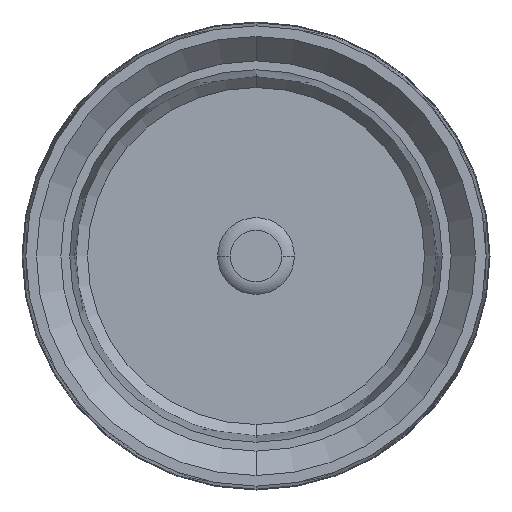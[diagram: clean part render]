
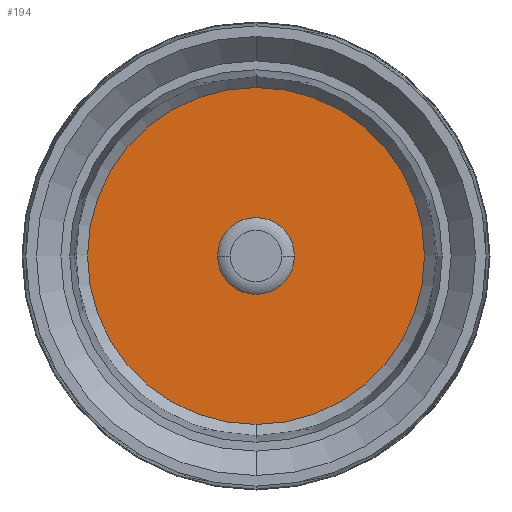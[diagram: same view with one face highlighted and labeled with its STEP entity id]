
A CAD part, front view. The second image highlights one B-rep face of the part: STEP entity #194.
In plain terms, the highlighted planar face has unit normal (0, -1, 0).
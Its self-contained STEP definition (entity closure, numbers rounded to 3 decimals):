
#15 = AXIS2_PLACEMENT_3D ( 'NONE', #780, #456, #702 ) ;
#18 = DIRECTION ( 'NONE',  ( 0., -1., 0. ) ) ;
#39 = DIRECTION ( 'NONE',  ( 0., -1., 0. ) ) ;
#57 = VERTEX_POINT ( 'NONE', #431 ) ;
#66 = FACE_OUTER_BOUND ( 'NONE', #707, .T. ) ;
#83 = DIRECTION ( 'NONE',  ( 0., 1., 0. ) ) ;
#110 = ORIENTED_EDGE ( 'NONE', *, *, #494, .T. ) ;
#132 = CIRCLE ( 'NONE', #278, 2.164 ) ;
#189 = PLANE ( 'NONE',  #590 ) ;
#194 = ADVANCED_FACE ( 'NONE', ( #645, #66 ), #189, .F. ) ;
#200 = CIRCLE ( 'NONE', #794, 9.5 ) ;
#222 = EDGE_CURVE ( 'NONE', #775, #760, #715, .T. ) ;
#263 = CIRCLE ( 'NONE', #610, 9.5 ) ;
#272 = CARTESIAN_POINT ( 'NONE',  ( 0., 24., 0. ) ) ;
#278 = AXIS2_PLACEMENT_3D ( 'NONE', #272, #83, #350 ) ;
#314 = CARTESIAN_POINT ( 'NONE',  ( -2.164, 24., 0. ) ) ;
#326 = DIRECTION ( 'NONE',  ( 0., 0., 1. ) ) ;
#350 = DIRECTION ( 'NONE',  ( 0., 0., 1. ) ) ;
#356 = ORIENTED_EDGE ( 'NONE', *, *, #736, .T. ) ;
#364 = EDGE_LOOP ( 'NONE', ( #758, #376 ) ) ;
#365 = EDGE_CURVE ( 'NONE', #760, #775, #132, .T. ) ;
#376 = ORIENTED_EDGE ( 'NONE', *, *, #365, .T. ) ;
#431 = CARTESIAN_POINT ( 'NONE',  ( 0., 24., 9.5 ) ) ;
#437 = CARTESIAN_POINT ( 'NONE',  ( 0., 24., 0. ) ) ;
#451 = CARTESIAN_POINT ( 'NONE',  ( 0., 24., 0. ) ) ;
#456 = DIRECTION ( 'NONE',  ( 0., 1., 0. ) ) ;
#494 = EDGE_CURVE ( 'NONE', #57, #817, #263, .T. ) ;
#505 = DIRECTION ( 'NONE',  ( 0., 0., 1. ) ) ;
#549 = DIRECTION ( 'NONE',  ( 0., 0., 1. ) ) ;
#590 = AXIS2_PLACEMENT_3D ( 'NONE', #451, #713, #326 ) ;
#610 = AXIS2_PLACEMENT_3D ( 'NONE', #730, #18, #549 ) ;
#645 = FACE_BOUND ( 'NONE', #364, .T. ) ;
#690 = CARTESIAN_POINT ( 'NONE',  ( 0., 24., -9.5 ) ) ;
#702 = DIRECTION ( 'NONE',  ( 0., 0., 1. ) ) ;
#707 = EDGE_LOOP ( 'NONE', ( #356, #110 ) ) ;
#713 = DIRECTION ( 'NONE',  ( 0., 1., 0. ) ) ;
#715 = CIRCLE ( 'NONE', #15, 2.164 ) ;
#730 = CARTESIAN_POINT ( 'NONE',  ( 0., 24., 0. ) ) ;
#736 = EDGE_CURVE ( 'NONE', #817, #57, #200, .T. ) ;
#758 = ORIENTED_EDGE ( 'NONE', *, *, #222, .T. ) ;
#760 = VERTEX_POINT ( 'NONE', #314 ) ;
#775 = VERTEX_POINT ( 'NONE', #810 ) ;
#780 = CARTESIAN_POINT ( 'NONE',  ( 0., 24., 0. ) ) ;
#794 = AXIS2_PLACEMENT_3D ( 'NONE', #437, #39, #505 ) ;
#810 = CARTESIAN_POINT ( 'NONE',  ( 2.164, 24., 0. ) ) ;
#817 = VERTEX_POINT ( 'NONE', #690 ) ;
